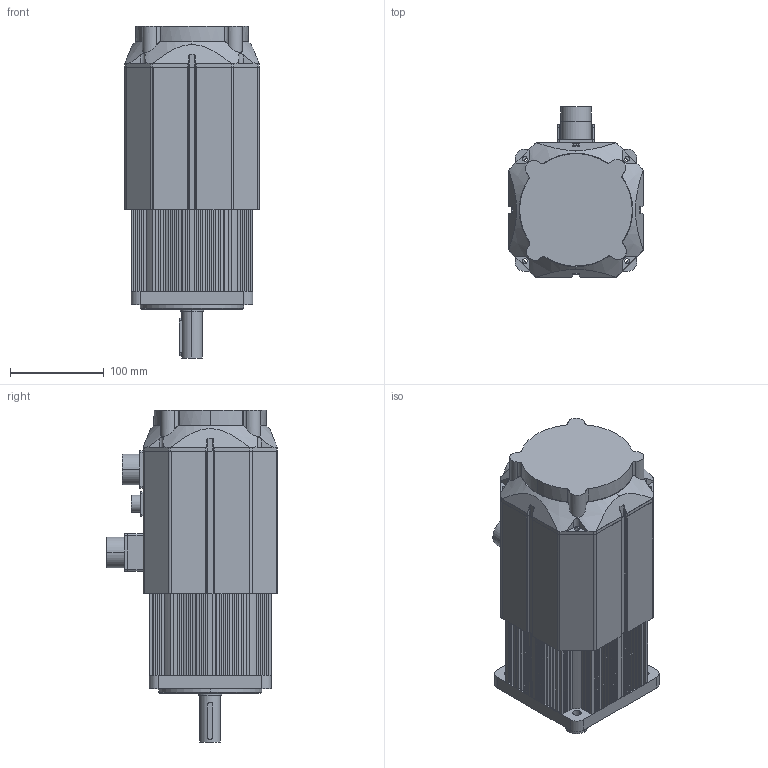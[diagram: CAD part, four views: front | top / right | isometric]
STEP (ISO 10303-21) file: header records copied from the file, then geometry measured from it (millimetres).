
FILE_DESCRIPTION (( 'STEP AP203' ), '1' );
FILE_NAME ('ASMJ-13-3825B-G322-01.STEP', '2024-03-15T08:22:40', ( 'Admin' ), ( '' ), 'SwSTEP 2.0', 'SolidWorks 2018', '' );
FILE_SCHEMA (( 'CONFIG_CONTROL_DESIGN' ));
Length unit declared in the file: millimetre
Products named in the file (1): ASMJ-13-3825B-G322-01
Bounding box: 143.07 x 181.83 x 354 mm (x, y, z)
Volume: 1667902 mm3; surface area: 631383.6 mm2
Topology: 13 solids, 13 shells, 1199 faces, 3361 edges, 2168 vertices
Faces by surface type: plane 631, cylinder 493, bspline 51, cone 24
Entity records: 41220 total; most frequent: CARTESIAN_POINT 10079, ORIENTED_EDGE 6574, DIRECTION 6411, EDGE_CURVE 3287, AXIS2_PLACEMENT_3D 2187, VERTEX_POINT 2168, VECTOR 2037, LINE 2037
